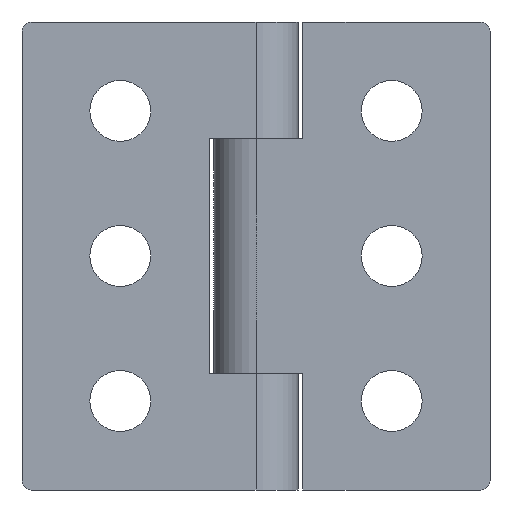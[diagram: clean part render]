
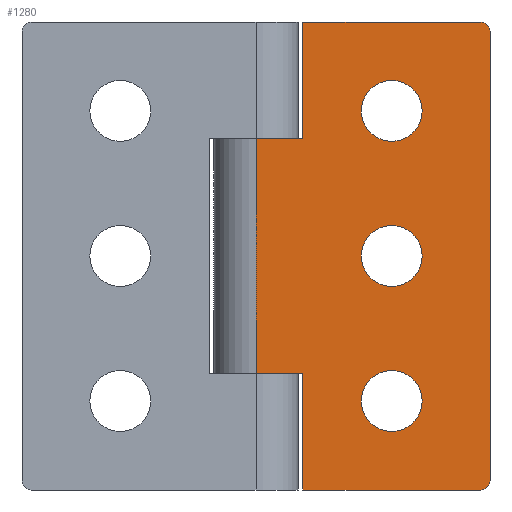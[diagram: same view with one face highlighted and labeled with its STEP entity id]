
A CAD part, front view. The second image highlights one B-rep face of the part: STEP entity #1280.
In plain terms, the highlighted planar face has unit normal (0, -1, 0).
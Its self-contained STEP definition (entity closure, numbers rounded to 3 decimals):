
#8 = CARTESIAN_POINT ( 'NONE',  ( 25., -4.5, -1. ) ) ;
#15 = VECTOR ( 'NONE', #958, 1000. ) ;
#37 = ORIENTED_EDGE ( 'NONE', *, *, #982, .T. ) ;
#54 = CARTESIAN_POINT ( 'NONE',  ( 0., -4.5, 0. ) ) ;
#63 = AXIS2_PLACEMENT_3D ( 'NONE', #321, #936, #1091 ) ;
#88 = VERTEX_POINT ( 'NONE', #203 ) ;
#93 = CARTESIAN_POINT ( 'NONE',  ( 14.5, -4.5, -6.25 ) ) ;
#98 = FACE_BOUND ( 'NONE', #1306, .T. ) ;
#99 = ORIENTED_EDGE ( 'NONE', *, *, #534, .T. ) ;
#118 = EDGE_CURVE ( 'NONE', #713, #1316, #1540, .T. ) ;
#141 = CARTESIAN_POINT ( 'NONE',  ( 5., -4.5, -37.5 ) ) ;
#159 = VERTEX_POINT ( 'NONE', #829 ) ;
#178 = CIRCLE ( 'NONE', #752, 3.25 ) ;
#190 = LINE ( 'NONE', #54, #741 ) ;
#195 = VECTOR ( 'NONE', #1004, 1000. ) ;
#203 = CARTESIAN_POINT ( 'NONE',  ( 14.5, -4.5, -21.75 ) ) ;
#214 = FACE_BOUND ( 'NONE', #1125, .T. ) ;
#254 = CIRCLE ( 'NONE', #1360, 3.25 ) ;
#265 = CARTESIAN_POINT ( 'NONE',  ( 0., -4.5, -37.5 ) ) ;
#268 = ORIENTED_EDGE ( 'NONE', *, *, #430, .T. ) ;
#311 = DIRECTION ( 'NONE',  ( 0., 0., 1. ) ) ;
#319 = EDGE_CURVE ( 'NONE', #1304, #1547, #979, .T. ) ;
#321 = CARTESIAN_POINT ( 'NONE',  ( 14.5, -4.5, -40.489 ) ) ;
#334 = ORIENTED_EDGE ( 'NONE', *, *, #1250, .T. ) ;
#348 = AXIS2_PLACEMENT_3D ( 'NONE', #1164, #788, #794 ) ;
#358 = LINE ( 'NONE', #1227, #1607 ) ;
#367 = EDGE_CURVE ( 'NONE', #1509, #590, #1347, .T. ) ;
#373 = DIRECTION ( 'NONE',  ( 0., -1., 0. ) ) ;
#383 = VERTEX_POINT ( 'NONE', #8 ) ;
#389 = DIRECTION ( 'NONE',  ( 0., 0., 1. ) ) ;
#392 = ORIENTED_EDGE ( 'NONE', *, *, #961, .T. ) ;
#409 = EDGE_LOOP ( 'NONE', ( #475, #649, #1508, #1246, #1131, #1113, #1054, #1519, #392, #778 ) ) ;
#430 = EDGE_CURVE ( 'NONE', #874, #1557, #554, .T. ) ;
#441 = DIRECTION ( 'NONE',  ( 1., 0., 0. ) ) ;
#460 = CARTESIAN_POINT ( 'NONE',  ( 0., -4.5, -50. ) ) ;
#475 = ORIENTED_EDGE ( 'NONE', *, *, #1241, .T. ) ;
#488 = AXIS2_PLACEMENT_3D ( 'NONE', #1224, #855, #1595 ) ;
#491 = CARTESIAN_POINT ( 'NONE',  ( 14.5, -4.5, -12.75 ) ) ;
#497 = VERTEX_POINT ( 'NONE', #1393 ) ;
#498 = AXIS2_PLACEMENT_3D ( 'NONE', #888, #1146, #389 ) ;
#502 = CARTESIAN_POINT ( 'NONE',  ( 5., -4.5, -12.5 ) ) ;
#503 = CIRCLE ( 'NONE', #1439, 3.25 ) ;
#534 = EDGE_CURVE ( 'NONE', #1557, #874, #503, .T. ) ;
#554 = CIRCLE ( 'NONE', #498, 3.25 ) ;
#579 = CARTESIAN_POINT ( 'NONE',  ( 14.5, -4.5, -40.489 ) ) ;
#580 = EDGE_CURVE ( 'NONE', #159, #1509, #1119, .T. ) ;
#583 = CARTESIAN_POINT ( 'NONE',  ( 5., -4.5, -12.5 ) ) ;
#590 = VERTEX_POINT ( 'NONE', #265 ) ;
#621 = CARTESIAN_POINT ( 'NONE',  ( 24., -4.5, -49. ) ) ;
#625 = CARTESIAN_POINT ( 'NONE',  ( 14.5, -4.5, -9.5 ) ) ;
#627 = ORIENTED_EDGE ( 'NONE', *, *, #118, .T. ) ;
#633 = VECTOR ( 'NONE', #1469, 1000. ) ;
#636 = DIRECTION ( 'NONE',  ( 0., 1., 0. ) ) ;
#641 = DIRECTION ( 'NONE',  ( 0., 0., -1. ) ) ;
#649 = ORIENTED_EDGE ( 'NONE', *, *, #704, .T. ) ;
#654 = CARTESIAN_POINT ( 'NONE',  ( 5., -4.5, -37.5 ) ) ;
#658 = VERTEX_POINT ( 'NONE', #687 ) ;
#674 = CARTESIAN_POINT ( 'NONE',  ( 14.5, -4.5, -25. ) ) ;
#687 = CARTESIAN_POINT ( 'NONE',  ( 14.5, -4.5, -28.25 ) ) ;
#692 = AXIS2_PLACEMENT_3D ( 'NONE', #621, #373, #641 ) ;
#704 = EDGE_CURVE ( 'NONE', #383, #1292, #717, .T. ) ;
#705 = EDGE_LOOP ( 'NONE', ( #1285, #37 ) ) ;
#712 = PLANE ( 'NONE',  #1603 ) ;
#713 = VERTEX_POINT ( 'NONE', #1069 ) ;
#717 = CIRCLE ( 'NONE', #348, 1. ) ;
#722 = EDGE_CURVE ( 'NONE', #1318, #1292, #190, .T. ) ;
#736 = DIRECTION ( 'NONE',  ( 1., 0., 0. ) ) ;
#741 = VECTOR ( 'NONE', #441, 1000. ) ;
#752 = AXIS2_PLACEMENT_3D ( 'NONE', #674, #1191, #1038 ) ;
#758 = DIRECTION ( 'NONE',  ( 0., 0., 1. ) ) ;
#778 = ORIENTED_EDGE ( 'NONE', *, *, #1352, .T. ) ;
#788 = DIRECTION ( 'NONE',  ( 0., -1., 0. ) ) ;
#794 = DIRECTION ( 'NONE',  ( 0., 0., -1. ) ) ;
#817 = CARTESIAN_POINT ( 'NONE',  ( 5., -4.5, -37.5 ) ) ;
#821 = EDGE_CURVE ( 'NONE', #590, #1304, #827, .T. ) ;
#827 = LINE ( 'NONE', #460, #15 ) ;
#829 = CARTESIAN_POINT ( 'NONE',  ( 5., -4.5, -50. ) ) ;
#847 = CARTESIAN_POINT ( 'NONE',  ( 0., -4.5, -50. ) ) ;
#855 = DIRECTION ( 'NONE',  ( 0., 1., 0. ) ) ;
#874 = VERTEX_POINT ( 'NONE', #491 ) ;
#886 = DIRECTION ( 'NONE',  ( 0., 0., 1. ) ) ;
#888 = CARTESIAN_POINT ( 'NONE',  ( 14.5, -4.5, -9.5 ) ) ;
#891 = CARTESIAN_POINT ( 'NONE',  ( 0., -4.5, -12.5 ) ) ;
#910 = CARTESIAN_POINT ( 'NONE',  ( 24., -4.5, 0. ) ) ;
#936 = DIRECTION ( 'NONE',  ( 0., 1., 0. ) ) ;
#958 = DIRECTION ( 'NONE',  ( 0., 0., 1. ) ) ;
#961 = EDGE_CURVE ( 'NONE', #159, #497, #1588, .T. ) ;
#964 = FACE_BOUND ( 'NONE', #705, .T. ) ;
#979 = LINE ( 'NONE', #502, #195 ) ;
#981 = DIRECTION ( 'NONE',  ( 0., 0., -1. ) ) ;
#982 = EDGE_CURVE ( 'NONE', #658, #88, #1372, .T. ) ;
#1004 = DIRECTION ( 'NONE',  ( 1., 0., 0. ) ) ;
#1010 = VECTOR ( 'NONE', #311, 1000. ) ;
#1029 = VERTEX_POINT ( 'NONE', #1542 ) ;
#1038 = DIRECTION ( 'NONE',  ( 0., 0., 1. ) ) ;
#1049 = EDGE_CURVE ( 'NONE', #88, #658, #178, .T. ) ;
#1054 = ORIENTED_EDGE ( 'NONE', *, *, #367, .F. ) ;
#1069 = CARTESIAN_POINT ( 'NONE',  ( 14.5, -4.5, -43.739 ) ) ;
#1073 = DIRECTION ( 'NONE',  ( 0., 1., 0. ) ) ;
#1083 = DIRECTION ( 'NONE',  ( 0., 0., 1. ) ) ;
#1091 = DIRECTION ( 'NONE',  ( 0., 0., 1. ) ) ;
#1106 = CIRCLE ( 'NONE', #692, 1. ) ;
#1113 = ORIENTED_EDGE ( 'NONE', *, *, #821, .F. ) ;
#1119 = LINE ( 'NONE', #654, #1441 ) ;
#1125 = EDGE_LOOP ( 'NONE', ( #99, #268 ) ) ;
#1131 = ORIENTED_EDGE ( 'NONE', *, *, #319, .F. ) ;
#1146 = DIRECTION ( 'NONE',  ( 0., 1., 0. ) ) ;
#1149 = CARTESIAN_POINT ( 'NONE',  ( 5., -4.5, 0. ) ) ;
#1164 = CARTESIAN_POINT ( 'NONE',  ( 24., -4.5, -1. ) ) ;
#1191 = DIRECTION ( 'NONE',  ( 0., 1., 0. ) ) ;
#1193 = VECTOR ( 'NONE', #736, 1000. ) ;
#1219 = CARTESIAN_POINT ( 'NONE',  ( 0., -4.5, -50. ) ) ;
#1224 = CARTESIAN_POINT ( 'NONE',  ( 14.5, -4.5, -25. ) ) ;
#1227 = CARTESIAN_POINT ( 'NONE',  ( 25., -4.5, -50. ) ) ;
#1241 = EDGE_CURVE ( 'NONE', #1029, #383, #358, .T. ) ;
#1246 = ORIENTED_EDGE ( 'NONE', *, *, #1418, .F. ) ;
#1250 = EDGE_CURVE ( 'NONE', #1316, #713, #254, .T. ) ;
#1274 = CARTESIAN_POINT ( 'NONE',  ( 5., -4.5, -12.5 ) ) ;
#1280 = ADVANCED_FACE ( 'NONE', ( #1598, #964, #98, #214 ), #712, .T. ) ;
#1285 = ORIENTED_EDGE ( 'NONE', *, *, #1049, .T. ) ;
#1292 = VERTEX_POINT ( 'NONE', #910 ) ;
#1304 = VERTEX_POINT ( 'NONE', #891 ) ;
#1306 = EDGE_LOOP ( 'NONE', ( #334, #627 ) ) ;
#1316 = VERTEX_POINT ( 'NONE', #1502 ) ;
#1318 = VERTEX_POINT ( 'NONE', #1149 ) ;
#1347 = LINE ( 'NONE', #141, #633 ) ;
#1352 = EDGE_CURVE ( 'NONE', #497, #1029, #1106, .T. ) ;
#1360 = AXIS2_PLACEMENT_3D ( 'NONE', #579, #1073, #1573 ) ;
#1372 = CIRCLE ( 'NONE', #488, 3.25 ) ;
#1393 = CARTESIAN_POINT ( 'NONE',  ( 24., -4.5, -50. ) ) ;
#1398 = LINE ( 'NONE', #1274, #1010 ) ;
#1418 = EDGE_CURVE ( 'NONE', #1547, #1318, #1398, .T. ) ;
#1439 = AXIS2_PLACEMENT_3D ( 'NONE', #625, #636, #758 ) ;
#1441 = VECTOR ( 'NONE', #886, 1000. ) ;
#1464 = DIRECTION ( 'NONE',  ( 0., -1., 0. ) ) ;
#1469 = DIRECTION ( 'NONE',  ( -1., 0., 0. ) ) ;
#1502 = CARTESIAN_POINT ( 'NONE',  ( 14.5, -4.5, -37.239 ) ) ;
#1508 = ORIENTED_EDGE ( 'NONE', *, *, #722, .F. ) ;
#1509 = VERTEX_POINT ( 'NONE', #817 ) ;
#1519 = ORIENTED_EDGE ( 'NONE', *, *, #580, .F. ) ;
#1540 = CIRCLE ( 'NONE', #63, 3.25 ) ;
#1542 = CARTESIAN_POINT ( 'NONE',  ( 25., -4.5, -49. ) ) ;
#1547 = VERTEX_POINT ( 'NONE', #583 ) ;
#1557 = VERTEX_POINT ( 'NONE', #93 ) ;
#1573 = DIRECTION ( 'NONE',  ( 0., 0., 1. ) ) ;
#1588 = LINE ( 'NONE', #847, #1193 ) ;
#1595 = DIRECTION ( 'NONE',  ( 0., 0., 1. ) ) ;
#1598 = FACE_OUTER_BOUND ( 'NONE', #409, .T. ) ;
#1603 = AXIS2_PLACEMENT_3D ( 'NONE', #1219, #1464, #981 ) ;
#1607 = VECTOR ( 'NONE', #1083, 1000. ) ;
